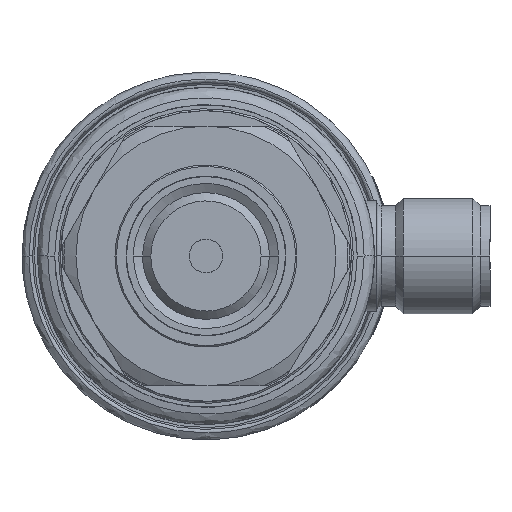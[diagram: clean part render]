
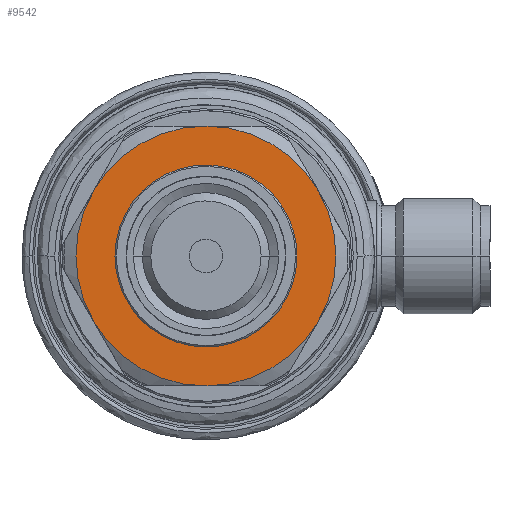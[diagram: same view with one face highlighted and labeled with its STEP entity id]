
A CAD part, front view. The second image highlights one B-rep face of the part: STEP entity #9542.
In plain terms, the highlighted planar face has unit normal (0, -1, 0).
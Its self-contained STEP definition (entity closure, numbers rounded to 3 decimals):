
#394 = CARTESIAN_POINT ( 'NONE',  ( 13.878, 0., 1.483 ) ) ;
#530 = CARTESIAN_POINT ( 'NONE',  ( 13.878, 0., -1.483 ) ) ;
#875 = ORIENTED_EDGE ( 'NONE', *, *, #27215, .F. ) ;
#1517 = VERTEX_POINT ( 'NONE', #5095 ) ;
#1618 = ORIENTED_EDGE ( 'NONE', *, *, #17406, .F. ) ;
#1647 = DIRECTION ( 'NONE',  ( 0., -1., 0. ) ) ;
#1808 = CARTESIAN_POINT ( 'NONE',  ( 2.827, 0., -13.5 ) ) ;
#2071 = CARTESIAN_POINT ( 'NONE',  ( -4.455, 0., -10.261 ) ) ;
#2452 = CARTESIAN_POINT ( 'NONE',  ( 13.105, 0., 4.301 ) ) ;
#2736 = VERTEX_POINT ( 'NONE', #25395 ) ;
#2845 = CARTESIAN_POINT ( 'NONE',  ( 10.278, 0., 9.199 ) ) ;
#2942 = CARTESIAN_POINT ( 'NONE',  ( -5.655, 0., 12.76 ) ) ;
#2994 = ORIENTED_EDGE ( 'NONE', *, *, #22613, .T. ) ;
#3601 = CARTESIAN_POINT ( 'NONE',  ( -7.785, 0., -7.422 ) ) ;
#3846 = DIRECTION ( 'NONE',  ( -1., 0., 0. ) ) ;
#3867 = CARTESIAN_POINT ( 'NONE',  ( 4.454, 0., -10.261 ) ) ;
#3925 = B_SPLINE_CURVE_WITH_KNOTS ( 'NONE', 5,
 ( #25361, #8172, #27288, #25221, #13022, #4277 ),
 .UNSPECIFIED., .F., .F.,
 ( 6, 6 ),
 ( 0., 0.014 ),
 .UNSPECIFIED. ) ;
#4109 = CARTESIAN_POINT ( 'NONE',  ( 0., 0., 13.5 ) ) ;
#4277 = CARTESIAN_POINT ( 'NONE',  ( -11.691, 0., -6.75 ) ) ;
#4360 = CARTESIAN_POINT ( 'NONE',  ( -13.878, 0., -1.483 ) ) ;
#4884 = B_SPLINE_CURVE_WITH_KNOTS ( 'NONE', 8,
 ( #16363, #10391, #7909, #3867, #12071, #2071, #3601, #12340, #24810 ),
 .UNSPECIFIED., .F., .F.,
 ( 9, 9 ),
 ( 0., 0.03 ),
 .UNSPECIFIED. ) ;
#5048 = CARTESIAN_POINT ( 'NONE',  ( 0., 0., -13.5 ) ) ;
#5095 = CARTESIAN_POINT ( 'NONE',  ( -11.691, 0., -6.75 ) ) ;
#5115 = CARTESIAN_POINT ( 'NONE',  ( 9.45, 0., 0. ) ) ;
#5519 = CARTESIAN_POINT ( 'NONE',  ( 7.785, 0., 7.422 ) ) ;
#5631 = EDGE_CURVE ( 'NONE', #18054, #20894, #21206, .T. ) ;
#5661 = CARTESIAN_POINT ( 'NONE',  ( -0.001, 0., 11.357 ) ) ;
#5789 = B_SPLINE_CURVE_WITH_KNOTS ( 'NONE', 5,
 ( #13537, #9630, #9232, #24194, #2845, #7022 ),
 .UNSPECIFIED., .F., .F.,
 ( 6, 6 ),
 ( 0., 0.014 ),
 .UNSPECIFIED. ) ;
#6725 = CARTESIAN_POINT ( 'NONE',  ( -11.691, 0., 6.75 ) ) ;
#6855 = CARTESIAN_POINT ( 'NONE',  ( -8.223, 0., 11.277 ) ) ;
#7022 = CARTESIAN_POINT ( 'NONE',  ( 11.691, 0., 6.75 ) ) ;
#7258 = CARTESIAN_POINT ( 'NONE',  ( -11.691, 0., 6.75 ) ) ;
#7319 = ORIENTED_EDGE ( 'NONE', *, *, #5631, .F. ) ;
#7600 = EDGE_LOOP ( 'NONE', ( #19651, #2994 ) ) ;
#7635 = CARTESIAN_POINT ( 'NONE',  ( 11.691, 0., -6.75 ) ) ;
#7888 = PLANE ( 'NONE',  #20311 ) ;
#7909 = CARTESIAN_POINT ( 'NONE',  ( 7.785, 0., -7.422 ) ) ;
#8168 = VERTEX_POINT ( 'NONE', #8840 ) ;
#8172 = CARTESIAN_POINT ( 'NONE',  ( -2.827, 0., -13.5 ) ) ;
#8673 = CARTESIAN_POINT ( 'NONE',  ( -13.878, 0., 1.483 ) ) ;
#8840 = CARTESIAN_POINT ( 'NONE',  ( -11.691, 0., 6.75 ) ) ;
#8977 = CARTESIAN_POINT ( 'NONE',  ( 13.105, 0., -4.301 ) ) ;
#9232 = CARTESIAN_POINT ( 'NONE',  ( 5.655, 0., 12.76 ) ) ;
#9542 = ADVANCED_FACE ( 'NONE', ( #20363, #12455 ), #7888, .T. ) ;
#9630 = CARTESIAN_POINT ( 'NONE',  ( 2.827, 0., 13.5 ) ) ;
#10069 = ORIENTED_EDGE ( 'NONE', *, *, #17077, .F. ) ;
#10264 = CARTESIAN_POINT ( 'NONE',  ( 0., 0., -13.5 ) ) ;
#10391 = CARTESIAN_POINT ( 'NONE',  ( 9.45, 0., -3.711 ) ) ;
#11935 = ORIENTED_EDGE ( 'NONE', *, *, #19383, .F. ) ;
#12071 = CARTESIAN_POINT ( 'NONE',  ( 0.001, 0., -11.357 ) ) ;
#12340 = CARTESIAN_POINT ( 'NONE',  ( -9.45, 0., -3.711 ) ) ;
#12455 = FACE_OUTER_BOUND ( 'NONE', #15730, .T. ) ;
#12717 = B_SPLINE_CURVE_WITH_KNOTS ( 'NONE', 5,
 ( #7258, #20000, #6855, #2942, #22222, #15587 ),
 .UNSPECIFIED., .F., .F.,
 ( 6, 6 ),
 ( 0., 0.014 ),
 .UNSPECIFIED. ) ;
#13022 = CARTESIAN_POINT ( 'NONE',  ( -10.278, 0., -9.199 ) ) ;
#13097 = B_SPLINE_CURVE_WITH_KNOTS ( 'NONE', 8,
 ( #13849, #22299, #13977, #18153, #5661, #18288, #5519, #14111, #5115 ),
 .UNSPECIFIED., .F., .F.,
 ( 9, 9 ),
 ( 0., 0.03 ),
 .UNSPECIFIED. ) ;
#13274 = CARTESIAN_POINT ( 'NONE',  ( 11.691, 0., 6.75 ) ) ;
#13367 = CARTESIAN_POINT ( 'NONE',  ( -13.105, 0., -4.301 ) ) ;
#13537 = CARTESIAN_POINT ( 'NONE',  ( 0., 0., 13.5 ) ) ;
#13849 = CARTESIAN_POINT ( 'NONE',  ( -9.45, 0., 0. ) ) ;
#13976 = CARTESIAN_POINT ( 'NONE',  ( 14.04, 0., 14.04 ) ) ;
#13977 = CARTESIAN_POINT ( 'NONE',  ( -7.785, 0., 7.422 ) ) ;
#14111 = CARTESIAN_POINT ( 'NONE',  ( 9.45, 0., 3.711 ) ) ;
#14780 = VERTEX_POINT ( 'NONE', #4109 ) ;
#15478 = CARTESIAN_POINT ( 'NONE',  ( 9.45, 0., 0. ) ) ;
#15546 = EDGE_CURVE ( 'NONE', #20894, #23131, #19449, .T. ) ;
#15587 = CARTESIAN_POINT ( 'NONE',  ( 0., 0., 13.5 ) ) ;
#15730 = EDGE_LOOP ( 'NONE', ( #23340, #7319, #10069, #1618, #875, #11935 ) ) ;
#16363 = CARTESIAN_POINT ( 'NONE',  ( 9.45, 0., 0. ) ) ;
#17077 = EDGE_CURVE ( 'NONE', #14780, #18054, #5789, .T. ) ;
#17167 = CARTESIAN_POINT ( 'NONE',  ( 11.691, 0., -6.75 ) ) ;
#17406 = EDGE_CURVE ( 'NONE', #8168, #14780, #12717, .T. ) ;
#17800 = B_SPLINE_CURVE_WITH_KNOTS ( 'NONE', 5,
 ( #19742, #13367, #4360, #8673, #25716, #6725 ),
 .UNSPECIFIED., .F., .F.,
 ( 6, 6 ),
 ( 0., 0.014 ),
 .UNSPECIFIED. ) ;
#18054 = VERTEX_POINT ( 'NONE', #24479 ) ;
#18153 = CARTESIAN_POINT ( 'NONE',  ( -4.454, 0., 10.261 ) ) ;
#18288 = CARTESIAN_POINT ( 'NONE',  ( 4.455, 0., 10.261 ) ) ;
#18725 = CARTESIAN_POINT ( 'NONE',  ( 5.655, 0., -12.76 ) ) ;
#19383 = EDGE_CURVE ( 'NONE', #23131, #1517, #3925, .T. ) ;
#19449 = B_SPLINE_CURVE_WITH_KNOTS ( 'NONE', 5,
 ( #7635, #24812, #20525, #18725, #1808, #10264 ),
 .UNSPECIFIED., .F., .F.,
 ( 6, 6 ),
 ( 0., 0.014 ),
 .UNSPECIFIED. ) ;
#19651 = ORIENTED_EDGE ( 'NONE', *, *, #21067, .T. ) ;
#19742 = CARTESIAN_POINT ( 'NONE',  ( -11.691, 0., -6.75 ) ) ;
#20000 = CARTESIAN_POINT ( 'NONE',  ( -10.278, 0., 9.199 ) ) ;
#20311 = AXIS2_PLACEMENT_3D ( 'NONE', #13976, #1647, #3846 ) ;
#20363 = FACE_BOUND ( 'NONE', #7600, .T. ) ;
#20525 = CARTESIAN_POINT ( 'NONE',  ( 8.223, 0., -11.277 ) ) ;
#20894 = VERTEX_POINT ( 'NONE', #27012 ) ;
#21067 = EDGE_CURVE ( 'NONE', #25662, #2736, #4884, .T. ) ;
#21206 = B_SPLINE_CURVE_WITH_KNOTS ( 'NONE', 5,
 ( #13274, #2452, #394, #530, #8977, #17167 ),
 .UNSPECIFIED., .F., .F.,
 ( 6, 6 ),
 ( 0., 0.014 ),
 .UNSPECIFIED. ) ;
#22222 = CARTESIAN_POINT ( 'NONE',  ( -2.827, 0., 13.5 ) ) ;
#22299 = CARTESIAN_POINT ( 'NONE',  ( -9.45, 0., 3.711 ) ) ;
#22613 = EDGE_CURVE ( 'NONE', #2736, #25662, #13097, .T. ) ;
#23131 = VERTEX_POINT ( 'NONE', #5048 ) ;
#23340 = ORIENTED_EDGE ( 'NONE', *, *, #15546, .F. ) ;
#24194 = CARTESIAN_POINT ( 'NONE',  ( 8.223, 0., 11.277 ) ) ;
#24479 = CARTESIAN_POINT ( 'NONE',  ( 11.691, 0., 6.75 ) ) ;
#24810 = CARTESIAN_POINT ( 'NONE',  ( -9.45, 0., 0. ) ) ;
#24812 = CARTESIAN_POINT ( 'NONE',  ( 10.278, 0., -9.199 ) ) ;
#25221 = CARTESIAN_POINT ( 'NONE',  ( -8.223, 0., -11.277 ) ) ;
#25361 = CARTESIAN_POINT ( 'NONE',  ( 0., 0., -13.5 ) ) ;
#25395 = CARTESIAN_POINT ( 'NONE',  ( -9.45, 0., 0. ) ) ;
#25662 = VERTEX_POINT ( 'NONE', #15478 ) ;
#25716 = CARTESIAN_POINT ( 'NONE',  ( -13.105, 0., 4.301 ) ) ;
#27012 = CARTESIAN_POINT ( 'NONE',  ( 11.691, 0., -6.75 ) ) ;
#27215 = EDGE_CURVE ( 'NONE', #1517, #8168, #17800, .T. ) ;
#27288 = CARTESIAN_POINT ( 'NONE',  ( -5.655, 0., -12.76 ) ) ;
